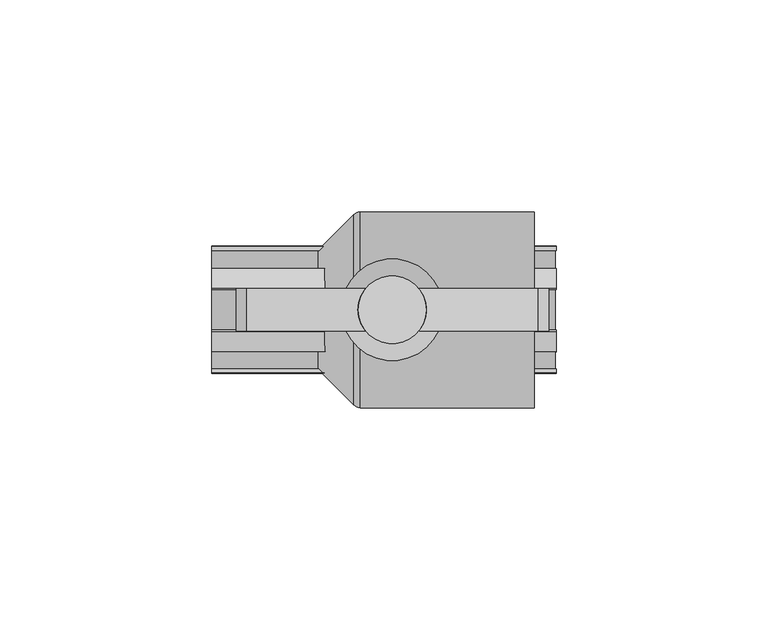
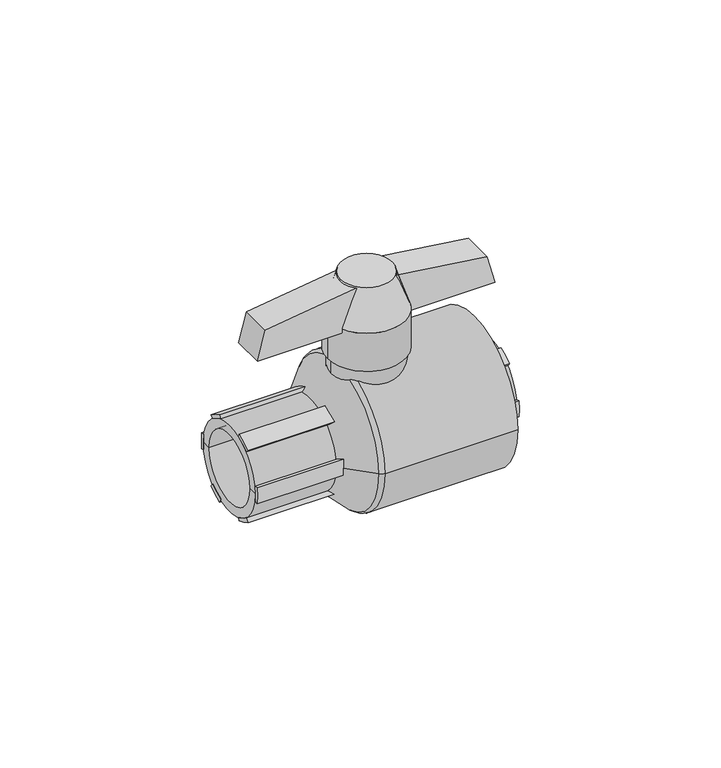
"""IFC4 building model written with IfcOpenShell, lengths in millimetres: valve geometry, Valvula Bola_Lubrizol_CPVC_FlowGuard_MX 19mm : Valvula Bola_Lubrizol_CPVC_FlowGuard_MX 19mm."""

import ifcopenshell
import ifcopenshell.guid

model = None  # the IFC model being written
_history = None  # IfcOwnerHistory: only IFC2X3 demands one
_inside = {}  # id of a spatial element -> (the spatial element, [elements in it])
_under = {}  # id of a project, library or spatial element -> (it, [spatial elements below it])
_declared = {}  # id of a project -> (the project, [libraries it declares])
_typed = {}  # id of a type object -> (the type object, [elements of that type])
_made_of = {}  # id of a material, layer set ... -> (it, [elements and type objects made of it])


def new_model(schema):
    """Start an empty IFC model of exactly this schema.

    Asked for "IFC4X3", IfcOpenShell would pick the latest addendum, in which some entities
    have other attributes; the version numbers below select the first issue.
    IFC2X3 requires an IfcOwnerHistory on every rooted entity: one is made here for all.
    """
    global model, _history
    if schema == "IFC4X3":
        model = ifcopenshell.file(schema_version=(4, 3, 0, 0))
    else:
        model = ifcopenshell.file(schema=schema)
    _inside.clear()
    _under.clear()
    _declared.clear()
    _typed.clear()
    _made_of.clear()
    _history = None
    if model.schema == "IFC2X3":
        org = make("IfcOrganization", Name="unknown")
        user = make(
            "IfcPersonAndOrganization",
            ThePerson=make("IfcPerson", FamilyName="unknown"),
            TheOrganization=org,
        )
        app = make(
            "IfcApplication",
            ApplicationDeveloper=org,
            Version="unknown",
            ApplicationFullName="unknown",
            ApplicationIdentifier="unknown",
        )
        _history = make(
            "IfcOwnerHistory",
            OwningUser=user,
            OwningApplication=app,
            ChangeAction="ADDED",
            CreationDate=0,
        )
    return model


def make(cls, **values):
    """One entity of the class cls with the attributes given. An attribute that is None is left unset."""
    return model.create_entity(
        cls, **{name: value for name, value in values.items() if value is not None}
    )


def rooted(cls, **values):
    """An entity with a GlobalId (a new one), such as an element, a storey or a relation."""
    return make(cls, GlobalId=ifcopenshell.guid.new(), OwnerHistory=_history, **values)


def si_unit(unit_type, name, prefix=None):
    """IfcSIUnit, for example si_unit("LENGTHUNIT", "METRE", prefix="MILLI")."""
    return make("IfcSIUnit", UnitType=unit_type, Prefix=prefix, Name=name)


def assignment(units):
    """IfcUnitAssignment: the units of a project."""
    return None if units is None else make("IfcUnitAssignment", Units=units)


def point(xyz):
    """IfcCartesianPoint."""
    return None if xyz is None else make("IfcCartesianPoint", Coordinates=xyz)


def direction(xyz):
    """IfcDirection."""
    return None if xyz is None else make("IfcDirection", DirectionRatios=xyz)


def frame(location, z_axis=None, x_axis=None):
    """IfcAxis2Placement3D, a coordinate frame: its origin and axes. An axis left out is left unset."""
    return make(
        "IfcAxis2Placement3D",
        Location=point(location),
        Axis=direction(z_axis),
        RefDirection=direction(x_axis),
    )


def frame_2d(location, x_axis=None):
    """IfcAxis2Placement2D, a coordinate frame in the plane: its origin and x axis."""
    return make(
        "IfcAxis2Placement2D", Location=point(location), RefDirection=direction(x_axis)
    )


def origin():
    """The frame at (0, 0, 0) with its axes left unset."""
    return frame((0.0, 0.0, 0.0))


def place(relative_to, where):
    """IfcLocalPlacement: puts the frame where relative to a parent placement (None: the world)."""
    return make(
        "IfcLocalPlacement", PlacementRelTo=relative_to, RelativePlacement=where
    )


def context(
    kind, dimensions, precision=None, world=None, true_north=None, identifier=None
):
    """IfcGeometricRepresentationContext, for example the 3D "Model" context."""
    return make(
        "IfcGeometricRepresentationContext",
        ContextIdentifier=identifier,
        ContextType=kind,
        CoordinateSpaceDimension=dimensions,
        Precision=precision,
        WorldCoordinateSystem=world,
        TrueNorth=true_north,
    )


def project(units=None, contexts=None):
    """IfcProject with its units and contexts."""
    return rooted(
        "IfcProject",
        Name="project",
        RepresentationContexts=contexts,
        UnitsInContext=assignment(units),
    )


def spatial(cls, under=None, at=None, **own):
    """A site, building, storey or space (cls), placed at a placement, below another one or the project."""
    s = rooted(cls, ObjectPlacement=at, **own)
    if under is not None:
        _under.setdefault(under.id(), (under, []))[1].append(s)
    return s


def polyline(points):
    """IfcPolyline through the points."""
    return make("IfcPolyline", Points=[point(p) for p in points])


def circle_curve(where, radius):
    """IfcCircle in the frame where."""
    return make("IfcCircle", Position=where, Radius=radius)


def ellipse_curve(where, semi_axis1, semi_axis2):
    """IfcEllipse in the frame where."""
    return make(
        "IfcEllipse", Position=where, SemiAxis1=semi_axis1, SemiAxis2=semi_axis2
    )


def trimmed(basis, trim1, trim2, sense, master):
    """IfcTrimmedCurve: the piece of a basis curve between two trims."""
    return make(
        "IfcTrimmedCurve",
        BasisCurve=basis,
        Trim1=trim1,
        Trim2=trim2,
        SenseAgreement=sense,
        MasterRepresentation=master,
    )


def segment(curve, same_sense, transition):
    """IfcCompositeCurveSegment."""
    return make(
        "IfcCompositeCurveSegment",
        Transition=transition,
        SameSense=same_sense,
        ParentCurve=curve,
    )


def composite_curve(segments, self_intersect=None):
    """IfcCompositeCurve: segments joined end to end."""
    return make("IfcCompositeCurve", Segments=segments, SelfIntersect=self_intersect)


def outline(outer, holes=None, kind="AREA"):
    """IfcArbitraryClosedProfileDef: a profile drawn as a closed curve; with holes, ...WithVoids."""
    if holes is None:
        return make("IfcArbitraryClosedProfileDef", ProfileType=kind, OuterCurve=outer)
    return make(
        "IfcArbitraryProfileDefWithVoids",
        ProfileType=kind,
        OuterCurve=outer,
        InnerCurves=holes,
    )


def extrude(swept, where, along, depth):
    """IfcExtrudedAreaSolid: the profile swept, set in the frame where, extruded along a direction by depth."""
    return make(
        "IfcExtrudedAreaSolid",
        SweptArea=swept,
        Position=where,
        ExtrudedDirection=direction(along),
        Depth=depth,
    )


def shape(context_of_items, identifier, shape_type, items):
    """IfcShapeRepresentation: the items that make up one representation, for example the "Body"."""
    return make(
        "IfcShapeRepresentation",
        ContextOfItems=context_of_items,
        RepresentationIdentifier=identifier,
        RepresentationType=shape_type,
        Items=items,
    )


def source(mapping_origin, context_of_items, identifier, shape_type, items):
    """IfcRepresentationMap: a shape defined once, which mapped items show again and again."""
    return make(
        "IfcRepresentationMap",
        MappingOrigin=mapping_origin,
        MappedRepresentation=shape(context_of_items, identifier, shape_type, items),
    )


def transform(
    local_origin,
    x_axis=None,
    y_axis=None,
    z_axis=None,
    scale=None,
    scale2=None,
    scale3=None,
    uniform=True,
):
    """IfcCartesianTransformationOperator3D, or its non-uniform kind. x_axis, y_axis, z_axis: its Axis1, 2, 3."""
    if uniform:
        return make(
            "IfcCartesianTransformationOperator3D",
            Axis1=direction(x_axis),
            Axis2=direction(y_axis),
            LocalOrigin=point(local_origin),
            Scale=scale,
            Axis3=direction(z_axis),
        )
    return make(
        "IfcCartesianTransformationOperator3DnonUniform",
        Axis1=direction(x_axis),
        Axis2=direction(y_axis),
        LocalOrigin=point(local_origin),
        Scale=scale,
        Axis3=direction(z_axis),
        Scale2=scale2,
        Scale3=scale3,
    )


def mapped(mapping_source, mapping_target):
    """IfcMappedItem: shows the shape of a source again, moved by a transform."""
    return make(
        "IfcMappedItem", MappingSource=mapping_source, MappingTarget=mapping_target
    )


def made_of(thing, what):
    """Note that an element or type object is made of a material, layer set ...; save() writes the relation."""
    if what is not None:
        _made_of.setdefault(what.id(), (what, []))[1].append(thing)
    return thing


def element(
    cls,
    number,
    at=None,
    inside=None,
    cuts=None,
    type_object=None,
    material=None,
    context=None,
    identifier="Body",
    shape_type=None,
    held_by="IfcProductDefinitionShape",
    body=None,
    shapes=None,
    **own,
):
    """One element of the class cls, such as IfcWall. Its Tag is "e" and its number.

    at: its placement. inside: the storey or other place that contains it. cuts: it is an
    opening in that element (IfcRelVoidsElement). A single representation is given by context,
    identifier, shape_type and body (its items); several are given by shapes. held_by: the class
    of the entity that holds the representations. save() writes the other relations.
    """
    e = rooted(cls, Tag="e%d" % number, ObjectPlacement=at, **own)
    if body is not None:
        shapes = [shape(context, identifier, shape_type, body)]
    if shapes is not None:
        e.Representation = make(held_by, Representations=shapes)
    if inside is not None:
        _inside.setdefault(inside.id(), (inside, []))[1].append(e)
    if cuts is not None:
        rooted(
            "IfcRelVoidsElement", RelatingBuildingElement=cuts, RelatedOpeningElement=e
        )
    if type_object is not None:
        _typed.setdefault(type_object.id(), (type_object, []))[1].append(e)
    return made_of(e, material)


def aggregate(whole, parts):
    """IfcRelAggregates: a whole, such as a stair, and the parts it consists of."""
    return rooted("IfcRelAggregates", RelatingObject=whole, RelatedObjects=parts)


def save(model, path):
    """Write the relations noted so far, then the file.

    IfcRelAggregates (storeys below a building ...), IfcRelContainedInSpatialStructure (elements
    in a storey), IfcRelDefinesByType, IfcRelAssociatesMaterial and IfcRelDeclares: one each for
    every whole, place, type object, material and project.
    """
    for whole, parts in _under.values():
        aggregate(whole, parts)
    for where, things in _inside.values():
        rooted(
            "IfcRelContainedInSpatialStructure",
            RelatedElements=things,
            RelatingStructure=where,
        )
    for kind, things in _typed.values():
        rooted("IfcRelDefinesByType", RelatedObjects=things, RelatingType=kind)
    for what, things in _made_of.values():
        rooted("IfcRelAssociatesMaterial", RelatedObjects=things, RelatingMaterial=what)
    for by, libraries in _declared.values():
        rooted("IfcRelDeclares", RelatingContext=by, RelatedDefinitions=libraries)
    model.write(path)


def plane_surface(at):
    """IfcPlane: the flat surface through the origin of the frame at, square to its z axis."""
    return make("IfcPlane", Position=at)


def cylinder_surface(at, radius):
    """IfcCylindricalSurface: all points at the distance radius from the z axis of the frame at."""
    return make("IfcCylindricalSurface", Position=at, Radius=radius)


def revolved_surface(curve, axis_point, axis_direction):
    """IfcSurfaceOfRevolution: the curve turned about the line through axis_point along axis_direction."""
    return make(
        "IfcSurfaceOfRevolution",
        SweptCurve=make("IfcArbitraryOpenProfileDef", ProfileType="CURVE", Curve=curve),
        AxisPosition=make("IfcAxis1Placement", Location=point(axis_point), Axis=direction(axis_direction)),
    )


def advanced_brep(points, edges, surfaces, faces):
    """IfcAdvancedBrep: a solid bounded by faces that lie on surfaces and meet in shared edges.

    An edge is (start, end): straight between two places in points (the first is 0);
    or (start, end, curve); or (start, end, curve, False) where it runs against its curve.
    A face is (place in surfaces, loops), or (place, loops, False) where it looks against
    its surface's normal. A loop lists edges by number (the first is 1), with a minus sign
    where the edge is run from its end to its start. The first loop is the outer one.
    """
    corners = [point(p) for p in points]
    vertices = [make("IfcVertexPoint", VertexGeometry=c) for c in corners]
    made = []
    for start, end, *more in edges:
        made.append(
            make(
                "IfcEdgeCurve",
                EdgeStart=vertices[start],
                EdgeEnd=vertices[end],
                EdgeGeometry=more[0] if more else make("IfcPolyline", Points=[corners[start], corners[end]]),
                SameSense=more[1] if len(more) > 1 else True,
            )
        )
    hull = []
    for where, loops, *sense in faces:
        bounds = []
        for j, loop in enumerate(loops):
            ring = [make("IfcOrientedEdge", EdgeElement=made[abs(k) - 1], Orientation=k > 0) for k in loop]
            bounds.append(
                make(
                    "IfcFaceOuterBound" if j == 0 else "IfcFaceBound",
                    Bound=make("IfcEdgeLoop", EdgeList=ring),
                    Orientation=True,
                )
            )
        hull.append(make("IfcAdvancedFace", Bounds=bounds, FaceSurface=surfaces[where], SameSense=sense[0] if sense else True))
    return make("IfcAdvancedBrep", Outer=make("IfcClosedShell", CfsFaces=hull))


def valve_9306bb06(model_context):
    return source(origin(), model_context, "Body", "SolidModel", [
        extrude(outline(composite_curve([segment(trimmed(circle_curve(frame_2d((2.1089214, -5.3685423)), 20.8), [point((-9.8029876, 11.6827457))], [point((-5.1417315, 14.1267912))], False, "CARTESIAN"), True, "CONTINUOUS"), segment(polyline([(-5.1417315, 14.1267912), (-4.7980529, 13.1825419)]), True, "CONTINUOUS"), segment(trimmed(circle_curve(frame_2d((2.1980039, -4.8048201)), 19.3), [point((-4.7980529, 13.1825419))], [point((-9.098824, 10.8435562))], True, "CARTESIAN"), True, "CONTINUOUS"), segment(polyline([(-9.098824, 10.8435562), (-9.8029876, 11.6827457)]), True, "CONTINUOUS")], self_intersect=False)), frame((41.0, 0.0, 0.0), z_axis=(1.0, 0.0, 0.0), x_axis=(0.0, 1.0, 0.0)), (0.0, 0.0, 1.0), 5.1377695),
        extrude(outline(composite_curve([segment(polyline([(14.8749029, -2.6228467), (14.0640516, -2.4798718)]), True, "CONTINUOUS"), segment(trimmed(circle_curve(frame_2d((-5.1182686, -0.3518233)), 19.3), [point((14.0640516, -2.4798718))], [point((13.9751858, 2.4642023))], True, "CARTESIAN"), True, "CONTINUOUS"), segment(polyline([(13.9751858, 2.4642023), (14.8813409, 2.6239819)]), True, "CONTINUOUS"), segment(trimmed(circle_curve(frame_2d((-5.7557591, 0.0258861)), 20.8), [point((14.8813409, 2.6239819))], [point((14.8749029, -2.6228467))], False, "CARTESIAN"), True, "CONTINUOUS")], self_intersect=False)), frame((41.0, 0.0, 0.0), z_axis=(1.0, 0.0, 0.0), x_axis=(0.0, 1.0, 0.0)), (0.0, 0.0, 1.0), 5.1377695),
        extrude(outline(composite_curve([segment(polyline([(-9.9223983, -11.8250539), (-9.0696006, -10.8087291)]), True, "CONTINUOUS"), segment(trimmed(circle_curve(frame_2d((2.7413854, 4.4553007)), 19.3), [point((-9.0696006, -10.8087291))], [point((-4.8385833, -13.2938985))], True, "CARTESIAN"), True, "CONTINUOUS"), segment(polyline([(-4.8385833, -13.2938985), (-5.1561976, -14.1665366)]), True, "CONTINUOUS"), segment(trimmed(circle_curve(frame_2d((1.5570755, 5.5203109)), 20.8), [point((-5.1561976, -14.1665366))], [point((-9.9223983, -11.8250539))], False, "CARTESIAN"), True, "CONTINUOUS")], self_intersect=False)), frame((41.0, 0.0, 0.0), z_axis=(1.0, 0.0, 0.0), x_axis=(0.0, 1.0, 0.0)), (0.0, 0.0, 1.0), 5.1377695),
        extrude(outline(composite_curve([segment(trimmed(circle_curve(frame_2d((-2.9871014, 4.7241076)), 20.8), [point((9.800959, -11.6803281))], [point((5.2346195, -14.3819989))], False, "CARTESIAN"), True, "CONTINUOUS"), segment(polyline([(5.2346195, -14.3819989), (4.7542139, -13.0620953)]), True, "CONTINUOUS"), segment(trimmed(circle_curve(frame_2d((-2.026035, 5.00772)), 19.3), [point((4.7542139, -13.0620953))], [point((9.0565165, -10.7931361))], True, "CARTESIAN"), True, "CONTINUOUS"), segment(polyline([(9.0565165, -10.7931361), (9.800959, -11.6803281)]), True, "CONTINUOUS")], self_intersect=False)), frame((41.0, 0.0, 0.0), z_axis=(1.0, 0.0, 0.0), x_axis=(0.0, 1.0, 0.0)), (0.0, 0.0, 1.0), 5.1377695),
        extrude(outline(composite_curve([segment(polyline([(9.7271846, 11.5924072), (9.0599317, 10.7972062)]), True, "CONTINUOUS"), segment(trimmed(circle_curve(frame_2d((-2.4324351, -4.7081318)), 19.3), [point((9.0599317, 10.7972062))], [point((4.7992396, 13.1858024))], True, "CARTESIAN"), True, "CONTINUOUS"), segment(polyline([(4.7992396, 13.1858024), (5.1871779, 14.2516543)]), True, "CONTINUOUS"), segment(trimmed(circle_curve(frame_2d((-2.9710757, -4.8816386)), 20.8), [point((5.1871779, 14.2516543))], [point((9.7271846, 11.5924072))], False, "CARTESIAN"), True, "CONTINUOUS")], self_intersect=False)), frame((41.0, 0.0, 0.0), z_axis=(1.0, 0.0, 0.0), x_axis=(0.0, 1.0, 0.0)), (0.0, 0.0, 1.0), 5.1377695),
        extrude(outline(composite_curve([segment(trimmed(circle_curve(frame_2d((5.7221407, 0.2602791)), 20.8), [point((-14.8770203, -2.6232201))], [point((-14.9418938, 2.634659))], False, "CARTESIAN"), True, "CONTINUOUS"), segment(polyline([(-14.9418938, 2.634659), (-13.8979047, 2.4505756)]), True, "CONTINUOUS"), segment(trimmed(circle_curve(frame_2d((5.218343, -0.2063158)), 19.3), [point((-13.8979047, 2.4505756))], [point((-13.9496578, -2.459701))], True, "CARTESIAN"), True, "CONTINUOUS"), segment(polyline([(-13.9496578, -2.459701), (-14.8770203, -2.6232201)]), True, "CONTINUOUS")], self_intersect=False)), frame((41.0, 0.0, 0.0), z_axis=(1.0, 0.0, 0.0), x_axis=(0.0, 1.0, 0.0)), (0.0, 0.0, 1.0), 5.1377695),
        extrude(outline(composite_curve([segment(trimmed(circle_curve(frame_2d((2.1089214, -5.3685423)), 20.8), [point((-9.8029876, 11.6827457))], [point((-5.1417315, 14.1267912))], False, "CARTESIAN"), True, "CONTINUOUS"), segment(polyline([(-5.1417315, 14.1267912), (-4.7980529, 13.1825419)]), True, "CONTINUOUS"), segment(trimmed(circle_curve(frame_2d((2.1980039, -4.8048201)), 19.3), [point((-4.7980529, 13.1825419))], [point((-9.098824, 10.8435562))], True, "CARTESIAN"), True, "CONTINUOUS"), segment(polyline([(-9.098824, 10.8435562), (-9.8029876, 11.6827457)]), True, "CONTINUOUS")], self_intersect=False)), frame((-35.0, 0.0, 0.0), z_axis=(1.0, 0.0, 0.0), x_axis=(0.0, 1.0, 0.0)), (0.0, 0.0, 1.0), 36.5127117),
        extrude(outline(composite_curve([segment(polyline([(14.8749029, -2.6228467), (14.0640516, -2.4798718)]), True, "CONTINUOUS"), segment(trimmed(circle_curve(frame_2d((-5.1182686, -0.3518233)), 19.3), [point((14.0640516, -2.4798718))], [point((13.9751858, 2.4642023))], True, "CARTESIAN"), True, "CONTINUOUS"), segment(polyline([(13.9751858, 2.4642023), (14.8813409, 2.6239819)]), True, "CONTINUOUS"), segment(trimmed(circle_curve(frame_2d((-5.7557591, 0.0258861)), 20.8), [point((14.8813409, 2.6239819))], [point((14.8749029, -2.6228467))], False, "CARTESIAN"), True, "CONTINUOUS")], self_intersect=False)), frame((-35.0, 0.0, 0.0), z_axis=(1.0, 0.0, 0.0), x_axis=(0.0, 1.0, 0.0)), (0.0, 0.0, 1.0), 36.5127117),
        extrude(outline(composite_curve([segment(polyline([(-9.9223983, -11.8250539), (-9.0696006, -10.8087291)]), True, "CONTINUOUS"), segment(trimmed(circle_curve(frame_2d((2.7413854, 4.4553007)), 19.3), [point((-9.0696006, -10.8087291))], [point((-4.8385833, -13.2938985))], True, "CARTESIAN"), True, "CONTINUOUS"), segment(polyline([(-4.8385833, -13.2938985), (-5.1561976, -14.1665366)]), True, "CONTINUOUS"), segment(trimmed(circle_curve(frame_2d((1.5570755, 5.5203109)), 20.8), [point((-5.1561976, -14.1665366))], [point((-9.9223983, -11.8250539))], False, "CARTESIAN"), True, "CONTINUOUS")], self_intersect=False)), frame((-35.0, 0.0, 0.0), z_axis=(1.0, 0.0, 0.0), x_axis=(0.0, 1.0, 0.0)), (0.0, 0.0, 1.0), 36.5127117),
        extrude(outline(composite_curve([segment(trimmed(circle_curve(frame_2d((-2.9871014, 4.7241076)), 20.8), [point((9.800959, -11.6803281))], [point((5.2346195, -14.3819989))], False, "CARTESIAN"), True, "CONTINUOUS"), segment(polyline([(5.2346195, -14.3819989), (4.7542139, -13.0620953)]), True, "CONTINUOUS"), segment(trimmed(circle_curve(frame_2d((-2.026035, 5.00772)), 19.3), [point((4.7542139, -13.0620953))], [point((9.0565165, -10.7931361))], True, "CARTESIAN"), True, "CONTINUOUS"), segment(polyline([(9.0565165, -10.7931361), (9.800959, -11.6803281)]), True, "CONTINUOUS")], self_intersect=False)), frame((-35.0, 0.0, 0.0), z_axis=(1.0, 0.0, 0.0), x_axis=(0.0, 1.0, 0.0)), (0.0, 0.0, 1.0), 36.5127117),
        extrude(outline(composite_curve([segment(polyline([(9.7271846, 11.5924072), (9.0599317, 10.7972062)]), True, "CONTINUOUS"), segment(trimmed(circle_curve(frame_2d((-2.4324351, -4.7081318)), 19.3), [point((9.0599317, 10.7972062))], [point((4.7992396, 13.1858024))], True, "CARTESIAN"), True, "CONTINUOUS"), segment(polyline([(4.7992396, 13.1858024), (5.1871779, 14.2516543)]), True, "CONTINUOUS"), segment(trimmed(circle_curve(frame_2d((-2.9710757, -4.8816386)), 20.8), [point((5.1871779, 14.2516543))], [point((9.7271846, 11.5924072))], False, "CARTESIAN"), True, "CONTINUOUS")], self_intersect=False)), frame((-35.0, 0.0, 0.0), z_axis=(1.0, 0.0, 0.0), x_axis=(0.0, 1.0, 0.0)), (0.0, 0.0, 1.0), 36.5127117),
        extrude(outline(composite_curve([segment(trimmed(circle_curve(frame_2d((5.7221407, 0.2602791)), 20.8), [point((-14.8770203, -2.6232201))], [point((-14.9418938, 2.634659))], False, "CARTESIAN"), True, "CONTINUOUS"), segment(polyline([(-14.9418938, 2.634659), (-13.8979047, 2.4505756)]), True, "CONTINUOUS"), segment(trimmed(circle_curve(frame_2d((5.218343, -0.2063158)), 19.3), [point((-13.8979047, 2.4505756))], [point((-13.9496578, -2.459701))], True, "CARTESIAN"), True, "CONTINUOUS"), segment(polyline([(-13.9496578, -2.459701), (-14.8770203, -2.6232201)]), True, "CONTINUOUS")], self_intersect=False)), frame((-35.0, 0.0, 0.0), z_axis=(1.0, 0.0, 0.0), x_axis=(0.0, 1.0, 0.0)), (0.0, 0.0, 1.0), 36.5127117),
        extrude(outline(polyline([(36.0368418, -29.2285303), (36.0368418, 44.4008657), (45.2305613, 41.9374159), (49.1194234, 13.7973931), (49.1194234, 1.3749423), (45.2305613, -26.7650805), (36.0368418, -29.2285303)])), frame((0.0, -5.0, 0.0), z_axis=(0.0, 1.0, 0.0), x_axis=(0.0, 0.0, 1.0)), (0.0, 0.0, 1.0), 10.0),
        advanced_brep(
        [(-0.5, 0.0, 49.7729829), (15.5, 0.0, 49.7729829), (-4.5, 0.0, 37.6215243), (19.5, 0.0, 37.6215243)],
        [
            (0, 1, circle_curve(frame((7.5, 0.0, 49.7729829), z_axis=(0.0, 0.0, 1.0), x_axis=(-1.0, 0.0, 0.0)), 8.0)),
            (1, 0, circle_curve(frame((7.5, 0.0, 49.7729829), z_axis=(0.0, 0.0, 1.0), x_axis=(1.0, 0.0, 0.0)), 8.0)),
            (2, 3, circle_curve(frame((7.5, 0.0, 37.6215243), z_axis=(0.0, 0.0, -1.0), x_axis=(1.0, 0.0, 0.0)), 12.0)),
            (3, 2, circle_curve(frame((7.5, 0.0, 37.6215243), z_axis=(0.0, 0.0, -1.0), x_axis=(-1.0, 0.0, 0.0)), 12.0)),
            (3, 1),
            (0, 2),
        ],
        [
            plane_surface(frame((7.5, 0.0, 49.7729829), z_axis=(0.0, 0.0, 1.0), x_axis=(0.0, -1.0, 0.0))),
            plane_surface(frame((7.5, 0.0, 37.6215243), z_axis=(0.0, 0.0, -1.0), x_axis=(0.0, -1.0, 0.0))),
            revolved_surface(polyline([(-0.4999999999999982, 0.0, 49.7729829), (-4.5, 0.0, 37.6215243)]), (7.5, 0.0, 74.0759001), (0.0, 0.0, -1.0)),
            revolved_surface(polyline([(15.499999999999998, 0.0, 49.7729829), (19.5, 0.0, 37.6215243)]), (7.5, 0.0, 74.0759001), (0.0, 0.0, -1.0)),
        ],
        [
            (0, [[1, 2]]),
            (1, [[3, 4]]),
            (2, [[-4, 5, -1, 6]]),
            (3, [[-3, -6, -2, -5]]),
        ],
    ),
        extrude(outline(composite_curve([segment(trimmed(circle_curve(frame_2d((7.5, 0.0)), 12.0), [point((-4.5, 0.0))], [point((19.5, 0.0))], False, "CARTESIAN"), True, "CONTINUOUS"), segment(trimmed(circle_curve(frame_2d((7.5, 0.0)), 12.0), [point((19.5, 0.0))], [point((-4.5, 0.0))], False, "CARTESIAN"), True, "CONTINUOUS")], self_intersect=False)), frame((0.0, 0.0, 25.1583293), z_axis=(0.0, 0.0, 1.0), x_axis=(1.0, 0.0, 0.0)), (0.0, 0.0, 1.0), 12.463195),
        extrude(outline(composite_curve([segment(trimmed(circle_curve(frame_2d((7.5, 0.0)), 11.0), [point((-3.5, 0.0))], [point((18.5, 0.0))], False, "CARTESIAN"), True, "CONTINUOUS"), segment(trimmed(circle_curve(frame_2d((7.5, 0.0)), 11.0), [point((18.5, 0.0))], [point((-3.5, 0.0))], False, "CARTESIAN"), True, "CONTINUOUS")], self_intersect=False)), frame((0.0, 0.0, -18.1360676), z_axis=(0.0, 0.0, 1.0), x_axis=(1.0, 0.0, 0.0)), (0.0, 0.0, 1.0), 43.2943969),
        advanced_brep(
        [(21.0, -11.1, 0.0), (21.0, 11.1, 0.0), (21.0, 0.0, 0.0), (46.0, -11.1, 0.0), (46.0, 11.1, 0.0), (46.0, -14.1, 0.0), (46.0, 14.1, 0.0), (41.0, -14.1, 0.0), (41.0, 14.1, 0.0), (41.0, -23.125, 0.0), (41.0, 23.125, 0.0), (-0.0497883, -23.125, 0.0), (-0.0497883, 23.125, 0.0), (-1.5625, -22.425, 0.0), (-1.5625, 22.425, 0.0), (-9.8875, -14.1, 0.0), (-9.8875, 14.1, 0.0), (-35.0, -14.1, 0.0), (-35.0, 14.1, 0.0), (-35.0, -11.1, 0.0), (-35.0, 11.1, 0.0), (6.5625, -11.1, 0.0), (6.5625, 11.1, 0.0), (6.5625, 0.0, 0.0)],
        [
            (0, 1, circle_curve(frame((21.0, 0.0, 0.0), z_axis=(1.0, 0.0, 0.0), x_axis=(0.0, 1.0, 0.0)), 11.1)),
            (1, 2),
            (2, 0),
            (1, 0, circle_curve(frame((21.0, 0.0, 0.0), z_axis=(1.0, 0.0, 0.0), x_axis=(0.0, 1.0, 0.0)), 11.1)),
            (3, 4, circle_curve(frame((46.0, 0.0, 0.0), z_axis=(1.0, 0.0, 0.0), x_axis=(0.0, 1.0, 0.0)), 11.1)),
            (4, 1),
            (0, 3),
            (4, 3, circle_curve(frame((46.0, 0.0, 0.0), z_axis=(1.0, 0.0, 0.0), x_axis=(0.0, 1.0, 0.0)), 11.1)),
            (5, 6, circle_curve(frame((46.0, 0.0, 0.0), z_axis=(1.0, 0.0, 0.0), x_axis=(0.0, 1.0, 0.0)), 14.1)),
            (6, 4),
            (3, 5),
            (6, 5, circle_curve(frame((46.0, 0.0, 0.0), z_axis=(1.0, 0.0, 0.0), x_axis=(0.0, 1.0, 0.0)), 14.1)),
            (7, 8, circle_curve(frame((41.0, 0.0, 0.0), z_axis=(1.0, 0.0, 0.0), x_axis=(0.0, 1.0, 0.0)), 14.1)),
            (8, 6),
            (5, 7),
            (8, 7, circle_curve(frame((41.0, 0.0, 0.0), z_axis=(1.0, 0.0, 0.0), x_axis=(0.0, 1.0, 0.0)), 14.1)),
            (9, 10, circle_curve(frame((41.0, 0.0, 0.0), z_axis=(1.0, 0.0, 0.0), x_axis=(0.0, 1.0, 0.0)), 23.125)),
            (10, 8),
            (7, 9),
            (10, 9, circle_curve(frame((41.0, 0.0, 0.0), z_axis=(1.0, 0.0, 0.0), x_axis=(0.0, 1.0, 0.0)), 23.125)),
            (11, 12, circle_curve(frame((-0.0497883, 0.0, 0.0), z_axis=(1.0, 0.0, 0.0), x_axis=(0.0, 1.0, 0.0)), 23.125)),
            (12, 10),
            (9, 11),
            (12, 11, circle_curve(frame((-0.0497883, 0.0, 0.0), z_axis=(1.0, 0.0, 0.0), x_axis=(0.0, 1.0, 0.0)), 23.125)),
            (13, 14, circle_curve(frame((-1.5625, 0.0, 0.0), z_axis=(1.0, 0.0, 0.0), x_axis=(0.0, 1.0, 0.0)), 22.425)),
            (14, 12, circle_curve(frame((0.1467757, 20.7157243, 0.0), z_axis=(0.0, 0.0, -1.0), x_axis=(1.0, 0.0, 0.0)), 2.4172808)),
            (11, 13, circle_curve(frame((0.1467757, -20.7157243, 0.0), z_axis=(0.0, 0.0, -1.0), x_axis=(1.0, 0.0, 0.0)), 2.4172808)),
            (14, 13, circle_curve(frame((-1.5625, 0.0, 0.0), z_axis=(1.0, 0.0, 0.0), x_axis=(0.0, 1.0, 0.0)), 22.425)),
            (15, 16, circle_curve(frame((-9.8875, 0.0, 0.0), z_axis=(1.0, 0.0, 0.0), x_axis=(0.0, 1.0, 0.0)), 14.1)),
            (16, 14),
            (13, 15),
            (16, 15, circle_curve(frame((-9.8875, 0.0, 0.0), z_axis=(1.0, 0.0, 0.0), x_axis=(0.0, 1.0, 0.0)), 14.1)),
            (17, 18, circle_curve(frame((-35.0, 0.0, 0.0), z_axis=(1.0, 0.0, 0.0), x_axis=(0.0, 1.0, 0.0)), 14.1)),
            (18, 16),
            (15, 17),
            (18, 17, circle_curve(frame((-35.0, 0.0, 0.0), z_axis=(1.0, 0.0, 0.0), x_axis=(0.0, 1.0, 0.0)), 14.1)),
            (19, 20, circle_curve(frame((-35.0, 0.0, 0.0), z_axis=(1.0, 0.0, 0.0), x_axis=(0.0, 1.0, 0.0)), 11.1)),
            (20, 18),
            (17, 19),
            (20, 19, circle_curve(frame((-35.0, 0.0, 0.0), z_axis=(1.0, 0.0, 0.0), x_axis=(0.0, 1.0, 0.0)), 11.1)),
            (21, 22, circle_curve(frame((6.5625, 0.0, 0.0), z_axis=(1.0, 0.0, 0.0), x_axis=(0.0, 1.0, 0.0)), 11.1)),
            (22, 20),
            (19, 21),
            (22, 21, circle_curve(frame((6.5625, 0.0, 0.0), z_axis=(1.0, 0.0, 0.0), x_axis=(0.0, 1.0, 0.0)), 11.1)),
            (23, 22),
            (21, 23),
        ],
        [
            plane_surface(frame((21.0, 0.0, 0.0), z_axis=(1.0, 0.0, 0.0), x_axis=(0.0, 1.0, 0.0))),
            revolved_surface(polyline([(21.0, 11.1, 0.0), (46.0, 11.1, 0.0)]), (-38.5589691, 0.0, 0.0), (-1.0, 0.0, 0.0)),
            plane_surface(frame((46.0, 0.0, 0.0), z_axis=(1.0, 0.0, 0.0), x_axis=(0.0, 1.0, 0.0))),
            cylinder_surface(frame((-38.5589691, 0.0, 0.0), z_axis=(-1.0, 0.0, 0.0), x_axis=(0.0, 1.0, 0.0)), 14.1),
            plane_surface(frame((41.0, 0.0, 0.0), z_axis=(1.0, 0.0, 0.0), x_axis=(0.0, 1.0, 0.0))),
            cylinder_surface(frame((-38.5589691, 0.0, 0.0), z_axis=(-1.0, 0.0, 0.0), x_axis=(0.0, 1.0, 0.0)), 23.125),
            revolved_surface(trimmed(ellipse_curve(frame((0.1467757, 20.7157243, 0.0), z_axis=(0.0, 0.0, 1.0), x_axis=(1.0, 0.0, 0.0)), 2.4172808, 2.4172808), [point((-0.0497883, 23.125, 0.0))], [point((-1.5625, 22.425, 0.0))], True, "CARTESIAN"), (-38.5589691, 0.0, 0.0), (-1.0, 0.0, 0.0)),
            revolved_surface(polyline([(-1.5625, 22.425, 0.0), (-9.8875, 14.1, 0.0)]), (-38.5589691, 0.0, 0.0), (-1.0, 0.0, 0.0)),
            plane_surface(frame((-35.0, 0.0, 0.0), z_axis=(-1.0, 0.0, 0.0), x_axis=(0.0, 1.0, 0.0))),
            revolved_surface(polyline([(-35.0, 11.1, 0.0), (6.5625, 11.1, 0.0)]), (-38.5589691, 0.0, 0.0), (-1.0, 0.0, 0.0)),
            plane_surface(frame((6.5625, 0.0, 0.0), z_axis=(-1.0, 0.0, 0.0), x_axis=(0.0, 1.0, 0.0))),
        ],
        [
            (0, [[1, 2, 3]]),
            (0, [[4, -3, -2]]),
            (1, [[5, 6, -1, 7]]),
            (1, [[8, -7, -4, -6]]),
            (2, [[9, 10, -5, 11]]),
            (2, [[12, -11, -8, -10]]),
            (3, [[13, 14, -9, 15]]),
            (3, [[16, -15, -12, -14]]),
            (4, [[17, 18, -13, 19]]),
            (4, [[20, -19, -16, -18]]),
            (5, [[21, 22, -17, 23]]),
            (5, [[24, -23, -20, -22]]),
            (6, [[25, 26, -21, 27]]),
            (6, [[28, -27, -24, -26]]),
            (7, [[29, 30, -25, 31]]),
            (7, [[32, -31, -28, -30]]),
            (3, [[33, 34, -29, 35]]),
            (3, [[36, -35, -32, -34]]),
            (8, [[37, 38, -33, 39]]),
            (8, [[40, -39, -36, -38]]),
            (9, [[41, 42, -37, 43]]),
            (9, [[44, -43, -40, -42]]),
            (10, [[45, -41, 46]]),
            (10, [[-46, -44, -45]]),
        ],
    ),
    ])


if __name__ == "__main__":
    model = new_model("IFC4")
    model_context = context("Model", 3, world=origin())
    ifc_project = project(units=[si_unit("LENGTHUNIT", "METRE", prefix="MILLI")], contexts=[model_context])
    site = spatial("IfcSite", under=ifc_project)
    building = spatial("IfcBuilding", under=site)
    placement = place(None, origin())
    valve_shape = valve_9306bb06(model_context)
    element("IfcValve", 1, ObjectType="Valvula Bola_Lubrizol_CPVC_FlowGuard_MX 19mm : Valvula Bola_Lubrizol_CPVC_FlowGuard_MX 19mm", at=placement, inside=building, context=model_context, shape_type="MappedRepresentation", body=[
        mapped(valve_shape, transform((0.0, 0.0, 0.0), x_axis=(1.0, 0.0, 0.0), y_axis=(0.0, 1.0, 0.0), z_axis=(0.0, 0.0, 1.0))),
    ])
    save(model, "model.ifc")
